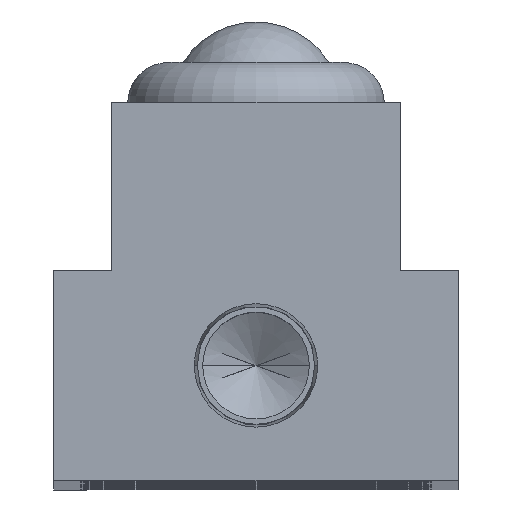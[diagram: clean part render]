
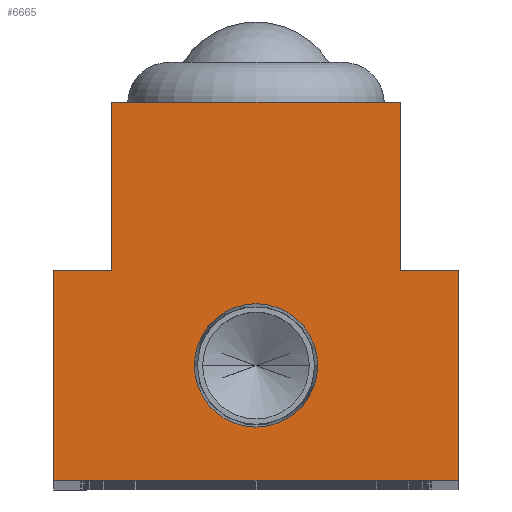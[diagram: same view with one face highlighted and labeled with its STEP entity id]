
A CAD part, top view. The second image highlights one B-rep face of the part: STEP entity #6665.
In plain terms, the highlighted planar face has unit normal (0, 0, 1).
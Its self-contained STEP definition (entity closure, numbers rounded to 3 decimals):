
#612 = CARTESIAN_POINT ( 'NONE',  ( 15., 0., 0. ) ) ;
#780 = CARTESIAN_POINT ( 'NONE',  ( 15., 0., 0. ) ) ;
#798 = ORIENTED_EDGE ( 'NONE', *, *, #982, .T. ) ;
#969 = CIRCLE ( 'NONE', #4683, 4.574 ) ;
#982 = EDGE_CURVE ( 'NONE', #7498, #2658, #9770, .T. ) ;
#995 = EDGE_CURVE ( 'NONE', #10110, #9536, #2897, .T. ) ;
#996 = CARTESIAN_POINT ( 'NONE',  ( -15., 15.5, 0. ) ) ;
#998 = CARTESIAN_POINT ( 'NONE',  ( -4.574, 8.5, 0. ) ) ;
#1451 = VECTOR ( 'NONE', #5343, 1000. ) ;
#1485 = CARTESIAN_POINT ( 'NONE',  ( 10.7, 28., 0. ) ) ;
#1520 = DIRECTION ( 'NONE',  ( 1., 0., 0. ) ) ;
#1562 = DIRECTION ( 'NONE',  ( 0., 0., 1. ) ) ;
#1577 = CARTESIAN_POINT ( 'NONE',  ( 15., 0., 0. ) ) ;
#1622 = CARTESIAN_POINT ( 'NONE',  ( 10.7, 15.5, 0. ) ) ;
#1634 = DIRECTION ( 'NONE',  ( -1., 0., 0. ) ) ;
#1640 = LINE ( 'NONE', #1622, #10896 ) ;
#1665 = AXIS2_PLACEMENT_3D ( 'NONE', #10515, #5165, #11406 ) ;
#1988 = VECTOR ( 'NONE', #1520, 1000. ) ;
#2088 = ORIENTED_EDGE ( 'NONE', *, *, #6381, .T. ) ;
#2335 = VECTOR ( 'NONE', #2550, 1000. ) ;
#2461 = VERTEX_POINT ( 'NONE', #8755 ) ;
#2515 = CARTESIAN_POINT ( 'NONE',  ( -10.7, 15.5, 0. ) ) ;
#2542 = LINE ( 'NONE', #612, #1988 ) ;
#2550 = DIRECTION ( 'NONE',  ( 0., 1., 0. ) ) ;
#2655 = CARTESIAN_POINT ( 'NONE',  ( 4.574, 8.5, 0. ) ) ;
#2656 = AXIS2_PLACEMENT_3D ( 'NONE', #4769, #11013, #5666 ) ;
#2658 = VERTEX_POINT ( 'NONE', #996 ) ;
#2781 = ORIENTED_EDGE ( 'NONE', *, *, #11148, .T. ) ;
#2897 = LINE ( 'NONE', #780, #2335 ) ;
#3374 = DIRECTION ( 'NONE',  ( -1., 0., 0. ) ) ;
#3494 = CARTESIAN_POINT ( 'NONE',  ( 10.7, 15.5, 0. ) ) ;
#3557 = EDGE_LOOP ( 'NONE', ( #6655, #4998, #7385, #798, #2088, #2781, #4876, #6122 ) ) ;
#3728 = VERTEX_POINT ( 'NONE', #7307 ) ;
#3847 = LINE ( 'NONE', #8890, #1451 ) ;
#4279 = EDGE_CURVE ( 'NONE', #2461, #7498, #9260, .T. ) ;
#4683 = AXIS2_PLACEMENT_3D ( 'NONE', #6936, #1562, #7839 ) ;
#4769 = CARTESIAN_POINT ( 'NONE',  ( 0., 8.5, 0. ) ) ;
#4876 = ORIENTED_EDGE ( 'NONE', *, *, #995, .T. ) ;
#4998 = ORIENTED_EDGE ( 'NONE', *, *, #8000, .T. ) ;
#5021 = VECTOR ( 'NONE', #1634, 1000. ) ;
#5165 = DIRECTION ( 'NONE',  ( 0., 0., 1. ) ) ;
#5236 = DIRECTION ( 'NONE',  ( -1., 0., 0. ) ) ;
#5289 = CARTESIAN_POINT ( 'NONE',  ( -15., 0., 0. ) ) ;
#5312 = LINE ( 'NONE', #5289, #7407 ) ;
#5343 = DIRECTION ( 'NONE',  ( 0., 1., 0. ) ) ;
#5666 = DIRECTION ( 'NONE',  ( 1., 0., 0. ) ) ;
#5701 = VECTOR ( 'NONE', #3374, 1000. ) ;
#5721 = EDGE_CURVE ( 'NONE', #6809, #9739, #969, .T. ) ;
#5800 = VERTEX_POINT ( 'NONE', #3494 ) ;
#6122 = ORIENTED_EDGE ( 'NONE', *, *, #6711, .T. ) ;
#6381 = EDGE_CURVE ( 'NONE', #2658, #3728, #5312, .T. ) ;
#6655 = ORIENTED_EDGE ( 'NONE', *, *, #10725, .T. ) ;
#6665 = ADVANCED_FACE ( 'NONE', ( #11448, #6979 ), #8707, .T. ) ;
#6711 = EDGE_CURVE ( 'NONE', #9536, #5800, #1640, .T. ) ;
#6809 = VERTEX_POINT ( 'NONE', #2655 ) ;
#6894 = VECTOR ( 'NONE', #8510, 1000. ) ;
#6936 = CARTESIAN_POINT ( 'NONE',  ( 0., 8.5, 0. ) ) ;
#6979 = FACE_OUTER_BOUND ( 'NONE', #3557, .T. ) ;
#7307 = CARTESIAN_POINT ( 'NONE',  ( -15., 0., 0. ) ) ;
#7324 = CARTESIAN_POINT ( 'NONE',  ( -10.7, 15.5, 0. ) ) ;
#7385 = ORIENTED_EDGE ( 'NONE', *, *, #4279, .T. ) ;
#7407 = VECTOR ( 'NONE', #10638, 1000. ) ;
#7498 = VERTEX_POINT ( 'NONE', #7324 ) ;
#7618 = CARTESIAN_POINT ( 'NONE',  ( -10.7, 28., 0. ) ) ;
#7839 = DIRECTION ( 'NONE',  ( 1., 0., 0. ) ) ;
#8000 = EDGE_CURVE ( 'NONE', #11151, #2461, #8044, .T. ) ;
#8044 = LINE ( 'NONE', #8730, #5701 ) ;
#8164 = ORIENTED_EDGE ( 'NONE', *, *, #5721, .F. ) ;
#8211 = ORIENTED_EDGE ( 'NONE', *, *, #10367, .F. ) ;
#8432 = EDGE_LOOP ( 'NONE', ( #8164, #8211 ) ) ;
#8510 = DIRECTION ( 'NONE',  ( 0., -1., 0. ) ) ;
#8707 = PLANE ( 'NONE',  #1665 ) ;
#8730 = CARTESIAN_POINT ( 'NONE',  ( -10.7, 28., 0. ) ) ;
#8755 = CARTESIAN_POINT ( 'NONE',  ( -10.7, 28., 0. ) ) ;
#8890 = CARTESIAN_POINT ( 'NONE',  ( 10.7, 28., 0. ) ) ;
#9260 = LINE ( 'NONE', #7618, #6894 ) ;
#9295 = CIRCLE ( 'NONE', #2656, 4.574 ) ;
#9536 = VERTEX_POINT ( 'NONE', #11255 ) ;
#9739 = VERTEX_POINT ( 'NONE', #998 ) ;
#9770 = LINE ( 'NONE', #2515, #5021 ) ;
#10110 = VERTEX_POINT ( 'NONE', #1577 ) ;
#10367 = EDGE_CURVE ( 'NONE', #9739, #6809, #9295, .T. ) ;
#10515 = CARTESIAN_POINT ( 'NONE',  ( 0., 0., 0. ) ) ;
#10638 = DIRECTION ( 'NONE',  ( 0., -1., 0. ) ) ;
#10725 = EDGE_CURVE ( 'NONE', #5800, #11151, #3847, .T. ) ;
#10896 = VECTOR ( 'NONE', #5236, 1000. ) ;
#11013 = DIRECTION ( 'NONE',  ( 0., 0., 1. ) ) ;
#11148 = EDGE_CURVE ( 'NONE', #3728, #10110, #2542, .T. ) ;
#11151 = VERTEX_POINT ( 'NONE', #1485 ) ;
#11255 = CARTESIAN_POINT ( 'NONE',  ( 15., 15.5, 0. ) ) ;
#11406 = DIRECTION ( 'NONE',  ( 1., 0., 0. ) ) ;
#11448 = FACE_BOUND ( 'NONE', #8432, .T. ) ;
